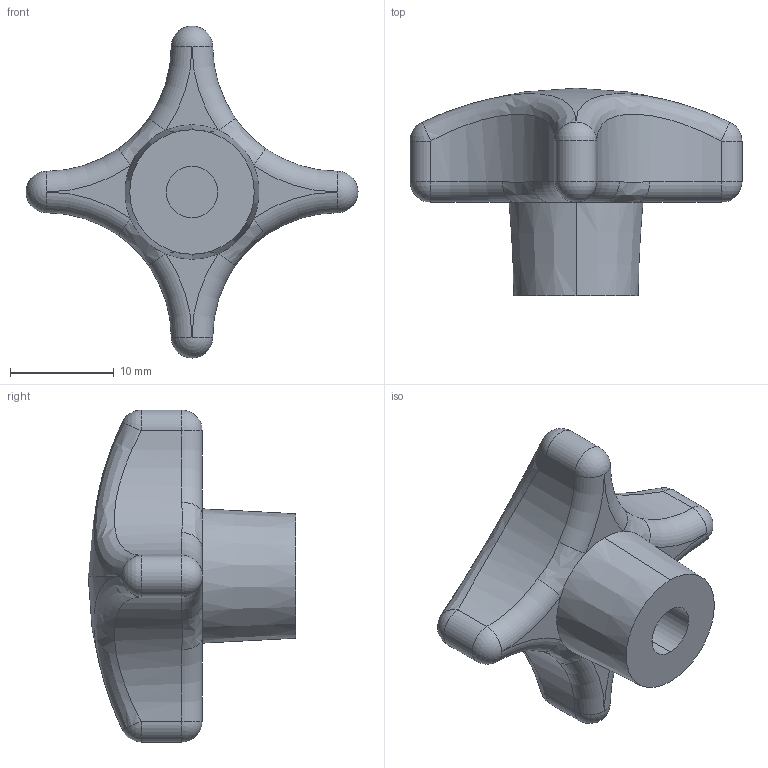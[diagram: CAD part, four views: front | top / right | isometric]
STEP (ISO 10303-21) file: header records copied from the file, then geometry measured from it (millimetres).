
FILE_DESCRIPTION (( 'STEP AP203' ), '1' );
FILE_NAME ('7000.W432.step', '2010-01-29T17:38:28', ( 'Wixroyd' ), ( 'Wixroyd' ), 'SwSTEP 2.0', 'SolidWorks 2009', '' );
FILE_SCHEMA (( 'CONFIG_CONTROL_DESIGN' ));
Length unit declared in the file: millimetre
Products named in the file (1): 7000.W432
Bounding box: 32 x 20 x 32 mm (x, y, z)
Volume: 4190 mm3; surface area: 2045 mm2
Topology: 1 solids, 1 shells, 45 faces, 97 edges, 51 vertices
Faces by surface type: cylinder 11, sphere 10, torus 8, bspline 8, plane 6, cone 2
Entity records: 4204 total; most frequent: CARTESIAN_POINT 3174, DIRECTION 225, ORIENTED_EDGE 186, AXIS2_PLACEMENT_3D 106, EDGE_CURVE 93, CIRCLE 68, VERTEX_POINT 51, EDGE_LOOP 46
